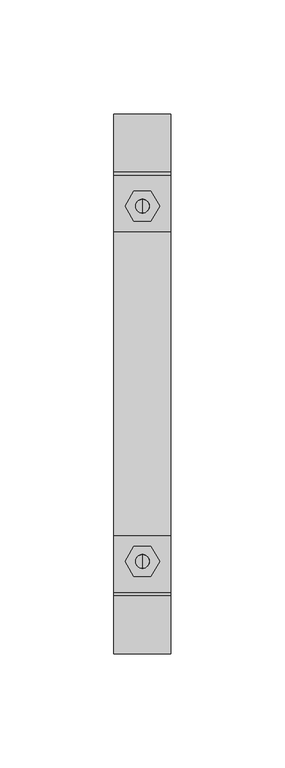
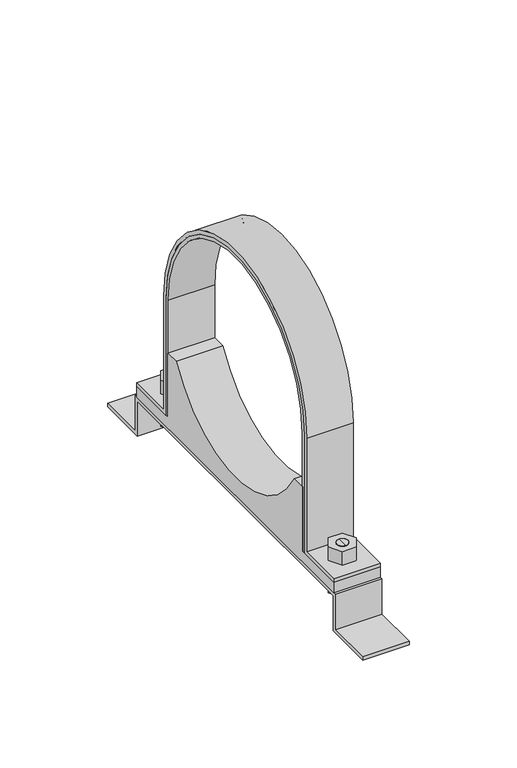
"""IFC4 building model written with IfcOpenShell, lengths in millimetres: valve geometry, Superfix DG3 Clamp (based on pipe) : Superfix DG3 Clamp (based on pipe)."""

from ifc_helpers import new_model, si_unit, point, frame, frame_2d, origin, place, context, project, spatial, polyline, circle_curve, trimmed, segment, composite_curve, outline, extrude, source, transform, mapped, element, save
from ifc_brep_helpers import plane_surface, cylinder_surface, advanced_brep


def valve_d9922134(model_context):
    return source(origin(), model_context, "Body", "SolidModel", [
        advanced_brep(
        [(0.0, 81.0, 7.0), (0.0, 75.0, 7.0), (0.0, 75.0, 20.0), (0.0, 81.0, 20.0), (0.0, 78.0, 7.0)],
        [
            (0, 1, circle_curve(frame((0.0, 78.0, 7.0), z_axis=(0.0, 0.0, 1.0), x_axis=(0.0, 1.0, 0.0)), 3.0)),
            (1, 2),
            (2, 3, circle_curve(frame((0.0, 78.0, 20.0), z_axis=(0.0, 0.0, -1.0), x_axis=(0.0, 1.0, 0.0)), 3.0)),
            (3, 0),
            (1, 0, circle_curve(frame((0.0, 78.0, 7.0), z_axis=(0.0, 0.0, 1.0), x_axis=(0.0, 1.0, 0.0)), 3.0)),
            (3, 2, circle_curve(frame((0.0, 78.0, 20.0), z_axis=(0.0, 0.0, -1.0), x_axis=(0.0, 1.0, 0.0)), 3.0)),
            (0, 4),
            (4, 1),
        ],
        [
            cylinder_surface(frame((0.0, 78.0, 92.7806094), z_axis=(0.0, 0.0, 1.0), x_axis=(0.0, 1.0, 0.0)), 3.0),
            plane_surface(frame((0.0, 78.0, 7.0), z_axis=(0.0, 0.0, -1.0), x_axis=(0.0, 1.0, 0.0))),
            plane_surface(frame((13.75, -91.5, 20.0), z_axis=(0.0, 0.0, 1.0), x_axis=(-1.0, 0.0, 0.0))),
        ],
        [
            (0, [[1, 2, 3, 4]]),
            (0, [[5, -4, 6, -2]]),
            (1, [[-1, 7, 8]]),
            (1, [[-5, -8, -7]]),
            (2, [[-3, -6]]),
        ],
    ),
        advanced_brep(
        [(0.0, 75.0, 38.0), (0.0, 81.0, 38.0), (0.0, 81.0, 28.0), (0.0, 75.0, 28.0), (0.0, 78.0, 38.0)],
        [
            (0, 1, circle_curve(frame((0.0, 78.0, 38.0), z_axis=(0.0, 0.0, -1.0), x_axis=(0.0, 1.0, 0.0)), 3.0)),
            (1, 2),
            (2, 3, circle_curve(frame((0.0, 78.0, 28.0), z_axis=(0.0, 0.0, 1.0), x_axis=(0.0, 1.0, 0.0)), 3.0)),
            (3, 0),
            (1, 0, circle_curve(frame((0.0, 78.0, 38.0), z_axis=(0.0, 0.0, -1.0), x_axis=(0.0, 1.0, 0.0)), 3.0)),
            (3, 2, circle_curve(frame((0.0, 78.0, 28.0), z_axis=(0.0, 0.0, 1.0), x_axis=(0.0, 1.0, 0.0)), 3.0)),
            (0, 4),
            (4, 1),
        ],
        [
            cylinder_surface(frame((0.0, 78.0, 92.7806094), z_axis=(0.0, 0.0, 1.0), x_axis=(0.0, 1.0, 0.0)), 3.0),
            plane_surface(frame((0.0, 78.0, 38.0), z_axis=(0.0, 0.0, 1.0), x_axis=(0.0, 1.0, 0.0))),
            plane_surface(frame((13.75, 91.5, 28.0), z_axis=(0.0, 0.0, -1.0), x_axis=(-1.0, 0.0, 0.0))),
        ],
        [
            (0, [[1, 2, 3, 4]]),
            (0, [[5, -4, 6, -2]]),
            (1, [[-1, 7, 8]]),
            (1, [[-5, -8, -7]]),
            (2, [[-3, -6]]),
        ],
    ),
        advanced_brep(
        [(0.0, -81.0, 38.0), (0.0, -75.0, 38.0), (0.0, -75.0, 28.0), (0.0, -81.0, 28.0), (0.0, -78.0, 38.0)],
        [
            (0, 1, circle_curve(frame((0.0, -78.0, 38.0), z_axis=(0.0, 0.0, -1.0), x_axis=(0.0, -1.0, 0.0)), 3.0)),
            (1, 2),
            (2, 3, circle_curve(frame((0.0, -78.0, 28.0), z_axis=(0.0, 0.0, 1.0), x_axis=(0.0, -1.0, 0.0)), 3.0)),
            (3, 0),
            (1, 0, circle_curve(frame((0.0, -78.0, 38.0), z_axis=(0.0, 0.0, -1.0), x_axis=(0.0, -1.0, 0.0)), 3.0)),
            (3, 2, circle_curve(frame((0.0, -78.0, 28.0), z_axis=(0.0, 0.0, 1.0), x_axis=(0.0, -1.0, 0.0)), 3.0)),
            (0, 4),
            (4, 1),
        ],
        [
            cylinder_surface(frame((0.0, -78.0, 92.7806094), z_axis=(0.0, 0.0, -1.0), x_axis=(0.0, -1.0, 0.0)), 3.0),
            plane_surface(frame((0.0, -78.0, 38.0), z_axis=(0.0, 0.0, 1.0), x_axis=(0.0, -1.0, 0.0))),
            plane_surface(frame((13.75, 91.5, 28.0), z_axis=(0.0, 0.0, -1.0), x_axis=(-1.0, 0.0, 0.0))),
        ],
        [
            (0, [[1, 2, 3, 4]]),
            (0, [[5, -4, 6, -2]]),
            (1, [[-1, 7, 8]]),
            (1, [[-5, -8, -7]]),
            (2, [[-3, -6]]),
        ],
    ),
        advanced_brep(
        [(0.0, -75.0, 7.0), (0.0, -81.0, 7.0), (0.0, -81.0, 20.0), (0.0, -75.0, 20.0), (0.0, -78.0, 7.0)],
        [
            (0, 1, circle_curve(frame((0.0, -78.0, 7.0), z_axis=(0.0, 0.0, 1.0), x_axis=(0.0, -1.0, 0.0)), 3.0)),
            (1, 2),
            (2, 3, circle_curve(frame((0.0, -78.0, 20.0), z_axis=(0.0, 0.0, -1.0), x_axis=(0.0, -1.0, 0.0)), 3.0)),
            (3, 0),
            (1, 0, circle_curve(frame((0.0, -78.0, 7.0), z_axis=(0.0, 0.0, 1.0), x_axis=(0.0, -1.0, 0.0)), 3.0)),
            (3, 2, circle_curve(frame((0.0, -78.0, 20.0), z_axis=(0.0, 0.0, -1.0), x_axis=(0.0, -1.0, 0.0)), 3.0)),
            (0, 4),
            (4, 1),
        ],
        [
            cylinder_surface(frame((0.0, -78.0, 92.7806094), z_axis=(0.0, 0.0, -1.0), x_axis=(0.0, -1.0, 0.0)), 3.0),
            plane_surface(frame((0.0, -78.0, 7.0), z_axis=(0.0, 0.0, -1.0), x_axis=(0.0, -1.0, 0.0))),
            plane_surface(frame((13.75, -91.5, 20.0), z_axis=(0.0, 0.0, 1.0), x_axis=(-1.0, 0.0, 0.0))),
        ],
        [
            (0, [[1, 2, 3, 4]]),
            (0, [[5, -4, 6, -2]]),
            (1, [[-1, 7, 8]]),
            (1, [[-5, -8, -7]]),
            (2, [[-3, -6]]),
        ],
    ),
        extrude(outline(composite_curve([segment(trimmed(circle_curve(frame_2d((0.0, 94.5)), 64.5), [point((64.5, 94.5))], [point((-64.5, 94.5))], True, "CARTESIAN"), True, "CONTINUOUS"), segment(polyline([(-64.5, 94.5), (-64.5, 28.0), (-91.5, 28.0), (-91.5, 30.0), (-66.5, 30.0), (-66.5, 94.5)]), True, "CONTINUOUS"), segment(trimmed(circle_curve(frame_2d((0.0, 94.5)), 66.5), [point((-66.5, 94.5))], [point((66.5, 94.5))], False, "CARTESIAN"), True, "CONTINUOUS"), segment(polyline([(66.5, 94.5), (66.5, 30.0), (91.5, 30.0), (91.5, 28.0), (64.5, 28.0), (64.5, 94.5)]), True, "CONTINUOUS")], self_intersect=False)), frame((-12.5, 0.0, 0.0), z_axis=(1.0, 0.0, 0.0), x_axis=(0.0, 1.0, 0.0)), (0.0, 0.0, 1.0), 25.0),
        extrude(outline(polyline([(7.5055535, -78.0), (3.7527767, -84.5), (-3.7527767, -84.5), (-7.5055535, -78.0), (-3.7527767, -71.5), (3.7527767, -71.5), (7.5055535, -78.0)]), holes=[composite_curve([segment(trimmed(circle_curve(frame_2d((0.0, -78.0)), 3.0), [point((3.0, -78.0))], [point((-3.0, -78.0))], True, "CARTESIAN"), True, "CONTINUOUS"), segment(trimmed(circle_curve(frame_2d((0.0, -78.0)), 3.0), [point((-3.0, -78.0))], [point((3.0, -78.0))], True, "CARTESIAN"), True, "CONTINUOUS")], self_intersect=False)]), frame((0.0, 0.0, 30.0), z_axis=(0.0, 0.0, 1.0), x_axis=(1.0, 0.0, 0.0)), (0.0, 0.0, 1.0), 8.0),
        extrude(outline(polyline([(7.5055535, 78.0), (3.7527767, 71.5), (-3.7527767, 71.5), (-7.5055535, 78.0), (-3.7527767, 84.5), (3.7527767, 84.5), (7.5055535, 78.0)]), holes=[composite_curve([segment(trimmed(circle_curve(frame_2d((0.0, 78.0)), 3.0), [point((3.0, 78.0))], [point((-3.0, 78.0))], True, "CARTESIAN"), True, "CONTINUOUS"), segment(trimmed(circle_curve(frame_2d((0.0, 78.0)), 3.0), [point((-3.0, 78.0))], [point((3.0, 78.0))], True, "CARTESIAN"), True, "CONTINUOUS")], self_intersect=False)]), frame((0.0, 0.0, 30.0), z_axis=(0.0, 0.0, 1.0), x_axis=(1.0, 0.0, 0.0)), (0.0, 0.0, 1.0), 8.0),
        extrude(outline(polyline([(7.5055535, -78.0), (3.7527767, -84.5), (-3.7527767, -84.5), (-7.5055535, -78.0), (-3.7527767, -71.5), (3.7527767, -71.5), (7.5055535, -78.0)]), holes=[composite_curve([segment(trimmed(circle_curve(frame_2d((0.0, -78.0)), 3.0), [point((3.0, -78.0))], [point((-3.0, -78.0))], True, "CARTESIAN"), True, "CONTINUOUS"), segment(trimmed(circle_curve(frame_2d((0.0, -78.0)), 3.0), [point((-3.0, -78.0))], [point((3.0, -78.0))], True, "CARTESIAN"), True, "CONTINUOUS")], self_intersect=False)]), frame((0.0, 0.0, 12.0), z_axis=(0.0, 0.0, 1.0), x_axis=(1.0, 0.0, 0.0)), (0.0, 0.0, 1.0), 8.0),
        extrude(outline(polyline([(7.5055535, 78.0), (3.7527767, 71.5), (-3.7527767, 71.5), (-7.5055535, 78.0), (-3.7527767, 84.5), (3.7527767, 84.5), (7.5055535, 78.0)]), holes=[composite_curve([segment(trimmed(circle_curve(frame_2d((0.0, 78.0)), 3.0), [point((3.0, 78.0))], [point((-3.0, 78.0))], True, "CARTESIAN"), True, "CONTINUOUS"), segment(trimmed(circle_curve(frame_2d((0.0, 78.0)), 3.0), [point((-3.0, 78.0))], [point((3.0, 78.0))], True, "CARTESIAN"), True, "CONTINUOUS")], self_intersect=False)]), frame((0.0, 0.0, 12.0), z_axis=(0.0, 0.0, 1.0), x_axis=(1.0, 0.0, 0.0)), (0.0, 0.0, 1.0), 8.0),
        extrude(outline(composite_curve([segment(polyline([(-91.5, 22.0), (-91.5, 28.0), (-62.5, 28.0), (-62.5, 64.5), (-54.8292805, 64.5)]), True, "CONTINUOUS"), segment(trimmed(circle_curve(frame_2d((0.0, 94.5)), 62.5), [point((-54.8292805, 64.5))], [point((54.8292805, 64.5))], True, "CARTESIAN"), True, "CONTINUOUS"), segment(polyline([(54.8292805, 64.5), (62.5, 64.5), (62.5, 28.0), (91.5, 28.0), (91.5, 22.0), (-91.5, 22.0)]), True, "CONTINUOUS")], self_intersect=False)), frame((-12.5, 0.0, 0.0), z_axis=(1.0, 0.0, 0.0), x_axis=(0.0, 1.0, 0.0)), (0.0, 0.0, 1.0), 25.0),
        extrude(outline(polyline([(-118.5, 2.0), (-93.0, 2.0), (-93.0, 22.0), (0.0, 22.0), (93.0, 22.0), (93.0, 2.0), (118.5, 2.0), (118.5, 0.0), (91.0, 0.0), (91.0, 20.0), (0.0, 20.0), (-91.0, 20.0), (-91.0, 0.0), (-118.5, 0.0), (-118.5, 2.0)])), frame((-12.5, 0.0, 0.0), z_axis=(1.0, 0.0, 0.0), x_axis=(0.0, 1.0, 0.0)), (0.0, 0.0, 1.0), 25.0),
        extrude(outline(composite_curve([segment(trimmed(circle_curve(frame_2d((0.0, 94.5)), 62.5), [point((62.5, 94.5))], [point((-62.5, 94.5))], True, "CARTESIAN"), True, "CONTINUOUS"), segment(polyline([(-62.5, 94.5), (-62.5, 28.0), (-64.5, 28.0), (-64.5, 94.5)]), True, "CONTINUOUS"), segment(trimmed(circle_curve(frame_2d((0.0, 94.5)), 64.5), [point((-64.5, 94.5))], [point((64.5, 94.5))], False, "CARTESIAN"), True, "CONTINUOUS"), segment(polyline([(64.5, 94.5), (64.5, 28.0), (62.5, 28.0), (62.5, 94.5)]), True, "CONTINUOUS")], self_intersect=False)), frame((-12.5, 0.0, 0.0), z_axis=(1.0, 0.0, 0.0), x_axis=(0.0, 1.0, 0.0)), (0.0, 0.0, 1.0), 25.0),
    ])


if __name__ == "__main__":
    model = new_model("IFC4")
    model_context = context("Model", 3, world=origin())
    ifc_project = project(units=[si_unit("LENGTHUNIT", "METRE", prefix="MILLI")], contexts=[model_context])
    site = spatial("IfcSite", under=ifc_project)
    building = spatial("IfcBuilding", under=site)
    placement = place(None, origin())
    valve_shape = valve_d9922134(model_context)
    element("IfcValve", 1, ObjectType="Superfix DG3 Clamp (based on pipe) : Superfix DG3 Clamp (based on pipe)", at=placement, inside=building, context=model_context, shape_type="MappedRepresentation", body=[
        mapped(valve_shape, transform((0.0, 0.0, 0.0), x_axis=(1.0, 0.0, 0.0), y_axis=(0.0, 1.0, 0.0), z_axis=(0.0, 0.0, 1.0))),
    ])
    save(model, "model.ifc")
